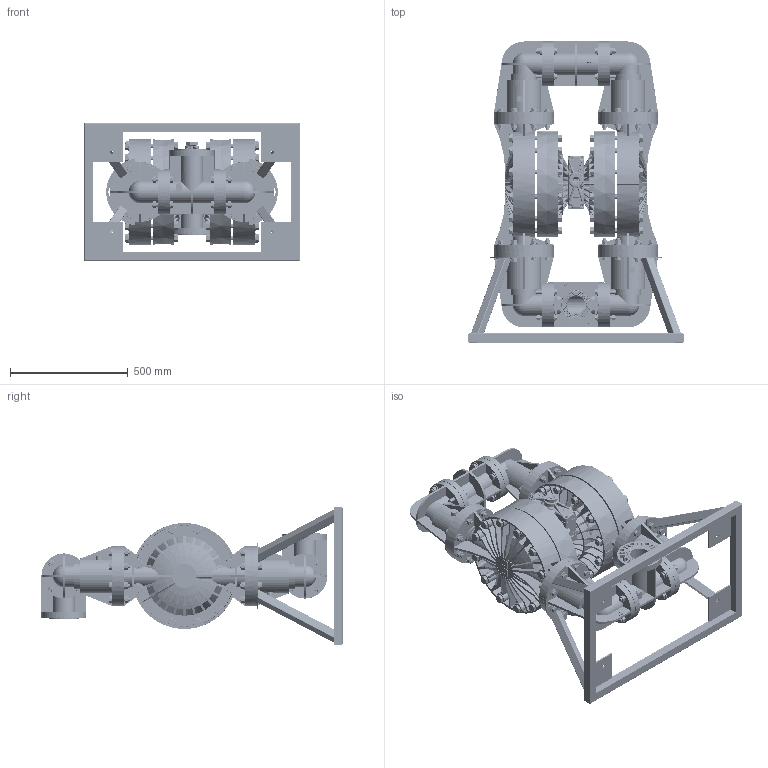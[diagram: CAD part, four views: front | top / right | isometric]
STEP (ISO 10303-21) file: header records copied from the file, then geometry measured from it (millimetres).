
FILE_DESCRIPTION((''),'2;1');
FILE_NAME('PS1500_ADV_PLST_POLY__SW0004','2014-10-22T',('nathan.hale'),(''),'PRO/ENGINEER BY PARAMETRIC TECHNOLOGY CORPORATION, 2011180','PRO/ENGINEER BY PARAMETRIC TECHNOLOGY CORPORATION, 2011180','');
FILE_SCHEMA(('CONFIG_CONTROL_DESIGN'));
Products named in the file (1): PS1500_ADV_PLST_POLY__SW0004
Bounding box: 914.4 x 1278.87 x 584.2 mm (x, y, z)
Volume: 57207598.3 mm3; surface area: 9981433 mm2
Topology: 9 solids, 13 shells, 27138 faces, 68169 edges, 42225 vertices
Faces by surface type: plane 14325, cylinder 3964, bspline 3464, cone 2478, torus 1505, sphere 1318, extrusion 84
Entity records: 1192930 total; most frequent: CARTESIAN_POINT 569056, ORIENTED_EDGE 136306, DIRECTION 120692, EDGE_CURVE 68153, VERTEX_POINT 42225, AXIS2_PLACEMENT_3D 40703, VECTOR 39286, LINE 39202
